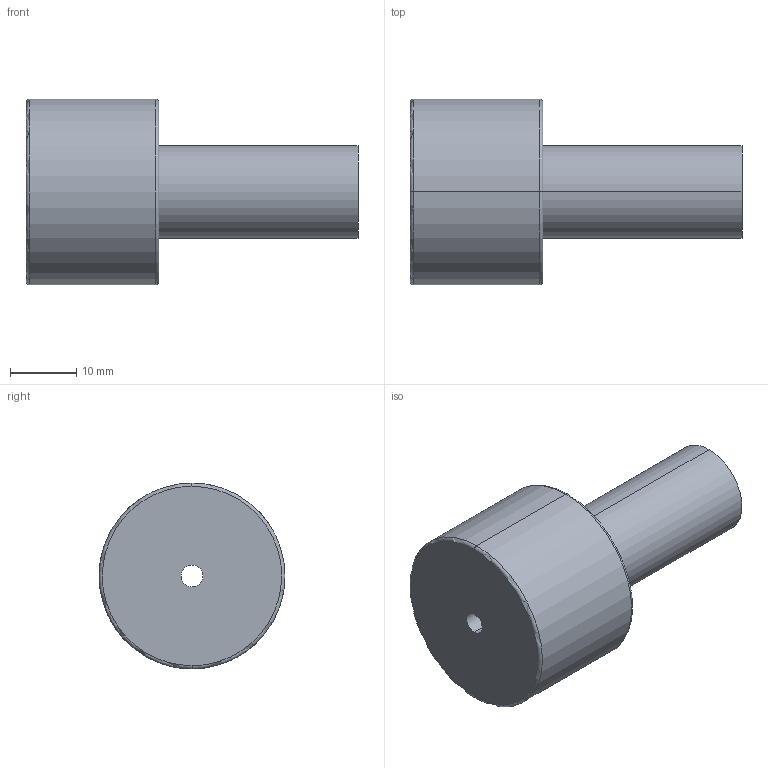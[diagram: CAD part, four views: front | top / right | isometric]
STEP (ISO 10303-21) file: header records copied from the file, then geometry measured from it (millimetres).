
FILE_DESCRIPTION(('CATIA V5 STEP Exchange'),'2;1');
FILE_NAME('C:\Users\Utente\Desktop\IO LAVORO\3D X SITO CF\X SITO\PLASTICA\3D files 367\367-14X50.stp','2021-03-24T15:18:48+00:00',('none'),('none'),'CATIA Version 5 Release 20 GA (IN-10)','CATIA V5 STEP AP203','none');
FILE_SCHEMA(('CONFIG_CONTROL_DESIGN'));
Length unit declared in the file: millimetre
Products named in the file (1): 367-14X50
Bounding box: 50 x 28 x 28 mm (x, y, z)
Volume: 16067.1 mm3; surface area: 4960.5 mm2
Topology: 1 solids, 1 shells, 13 faces, 42 edges, 32 vertices
Faces by surface type: torus 4, cylinder 4, plane 3, cone 2
Entity records: 608 total; most frequent: CARTESIAN_POINT 194, ORIENTED_EDGE 84, DIRECTION 60, AXIS2_PLACEMENT_3D 42, EDGE_CURVE 42, VERTEX_POINT 32, CIRCLE 28, EDGE_LOOP 16
